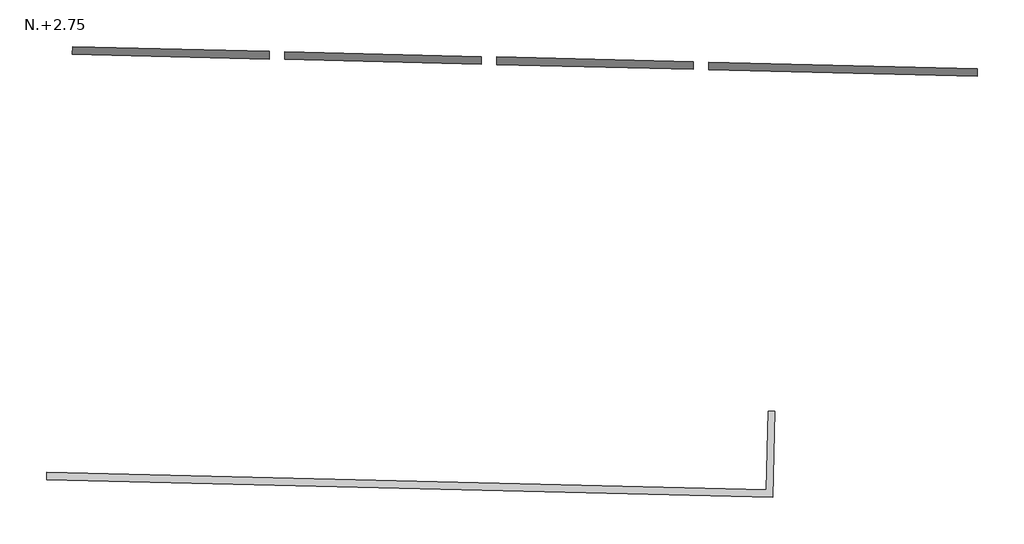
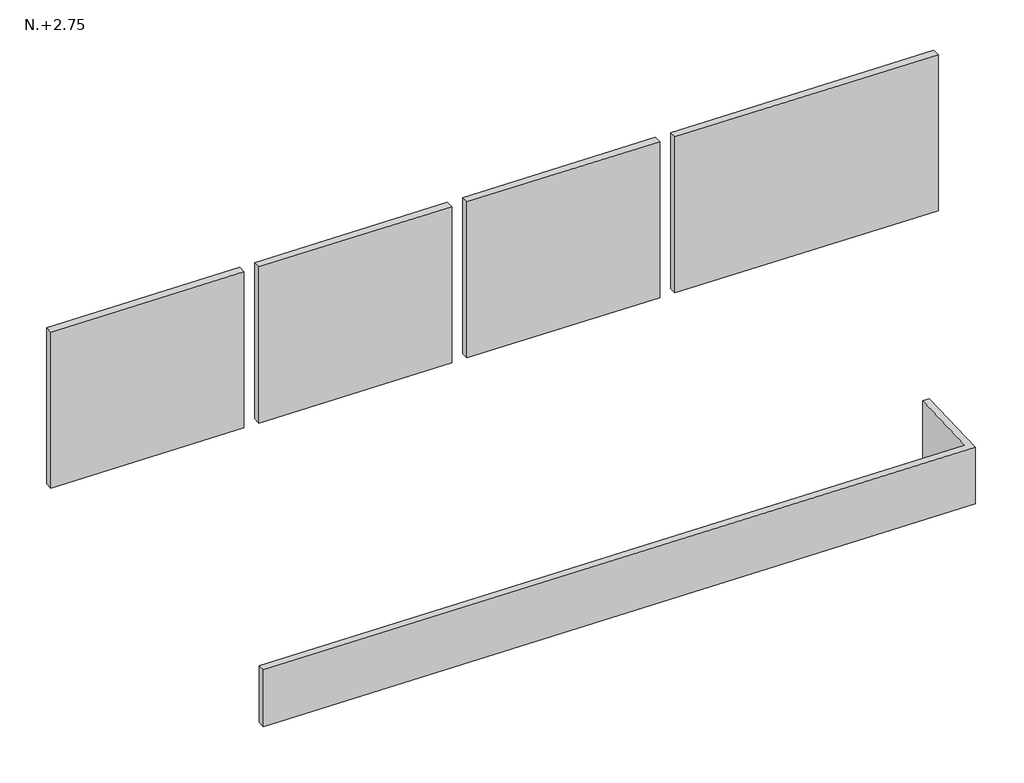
# One storey: 5 proxies.
"""IFC4 building model written with IfcOpenShell, lengths in millimetres."""

from ifc_helpers import new_model, si_unit, frame, origin, place, context, project, spatial, polyline, outline, extrude, element, save

model = new_model("IFC4")

# Units and contexts
model_context = context("Model", 3, world=origin())
ifc_project = project(units=[si_unit("LENGTHUNIT", "METRE", prefix="MILLI")], contexts=[model_context])

# Site, building, storey
site = spatial("IfcSite", under=ifc_project)
building = spatial("IfcBuilding", under=site)
storey = spatial("IfcBuildingStorey", under=building, Name="N.+2.75", Elevation=-250.0)

# Proxies
placement = place(None, origin())
element("IfcBuildingElementProxy", 1, Name="Masa 19 : Masa 19", ObjectType="Masa 19 : Masa 19", at=placement, inside=storey, context=model_context, shape_type="SweptSolid", body=[
    extrude(outline(polyline([(36433.1727244, 10829.6106252), (36430.1233864, 10704.6478245), (33261.0667628, 10781.9790363), (33264.1161008, 10906.9418369), (36433.1727244, 10829.6106252)])), frame((0.0, 0.0, -180.0), z_axis=(0.0, 0.0, 1.0), x_axis=(1.0, 0.0, 0.0)), (0.0, 0.0, 1.0), 2750.0),
])
element("IfcBuildingElementProxy", 2, Name="Masa 20 : Masa 19", ObjectType="Masa 20 : Masa 19", at=placement, inside=storey, context=model_context, shape_type="SweptSolid", body=[
    extrude(outline(polyline([(39852.1549493, 10746.1807374), (39849.1056113, 10621.2179368), (36680.0489876, 10698.5491485), (36683.0983256, 10823.5119492), (39852.1549493, 10746.1807374)])), frame((0.0, 0.0, -180.0), z_axis=(0.0, 0.0, 1.0), x_axis=(1.0, 0.0, 0.0)), (0.0, 0.0, 1.0), 2750.0),
])
element("IfcBuildingElementProxy", 3, Name="Masa 21 : Masa 19", ObjectType="Masa 21 : Masa 19", at=placement, inside=storey, context=model_context, shape_type="SweptSolid", body=[
    extrude(outline(polyline([(43271.1371741, 10662.7508496), (43268.0878361, 10537.788049), (40099.0312124, 10615.1192608), (40102.0805504, 10740.0820614), (43271.1371741, 10662.7508496)])), frame((0.0, 0.0, -180.0), z_axis=(0.0, 0.0, 1.0), x_axis=(1.0, 0.0, 0.0)), (0.0, 0.0, 1.0), 2750.0),
])
element("IfcBuildingElementProxy", 4, Name="Masa 22 : Masa 19", ObjectType="Masa 22 : Masa 19", at=placement, inside=storey, context=model_context, shape_type="SweptSolid", body=[
    extrude(outline(polyline([(47849.7741886, 10551.0231052), (47846.7248506, 10426.0603045), (43518.0134373, 10531.689373), (43521.0627753, 10656.6521736), (47849.7741886, 10551.0231052)])), frame((0.0, 0.0, -180.0), z_axis=(0.0, 0.0, 1.0), x_axis=(1.0, 0.0, 0.0)), (0.0, 0.0, 1.0), 2750.0),
])
element("IfcBuildingElementProxy", 5, Name="Masa 26 : Masa 26", ObjectType="Masa 26 : Masa 26", at=placement, inside=storey, context=model_context, shape_type="SweptSolid", body=[
    extrude(outline(polyline([(44550.1866812, 3639.4587206), (32843.6715184, 3925.1207048), (32846.5996874, 4045.1179615), (44443.1475845, 3762.1393948), (44474.1280542, 5031.7284809), (44584.0953198, 5029.0450634), (44550.1866812, 3639.4587206)])), frame((0.0, 0.0, -80.0), z_axis=(0.0, 0.0, 1.0), x_axis=(1.0, 0.0, 0.0)), (0.0, 0.0, 1.0), 1000.0),
])

save(model, "model.ifc")
